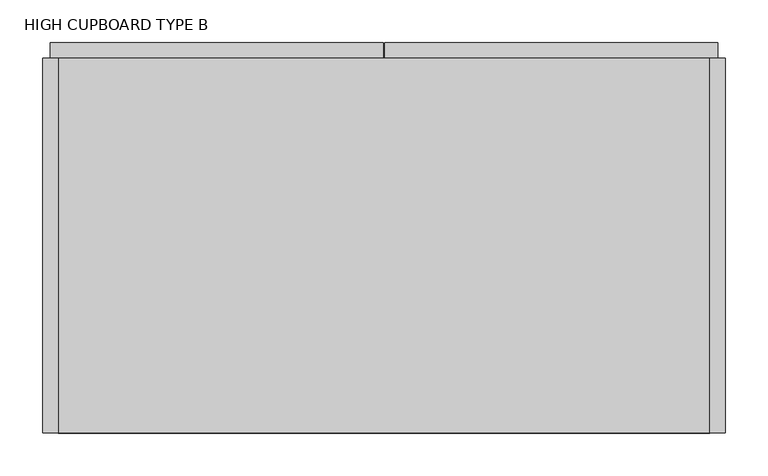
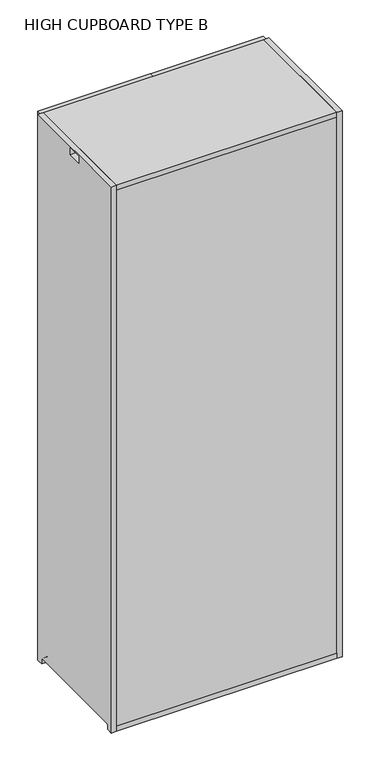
"""IFC4 building model written with IfcOpenShell, lengths in millimetres: furniture geometry, HIGH CUPBOARD TYPE B : 800mmW_High_Cupboad-TypeB."""

from ifc_helpers import new_model, si_unit, point, frame, frame_2d, origin, place, context, project, spatial, polyline, circle_curve, trimmed, segment, composite_curve, outline, extrude, faceted_brep, source, transform, mapped, element, save
from ifc_brep_helpers import plane_surface, revolved_surface, advanced_brep


def high_cupboard_type_b_c3cffa0f(model_context):
    return source(origin(), model_context, "Body", "SolidModel", [
        extrude(outline(composite_curve([segment(polyline([(220.0, 2000.0), (220.0, 0.0), (198.0, 0.0), (198.0, 17.0)]), True, "CONTINUOUS"), segment(trimmed(circle_curve(frame_2d((194.0, 17.0)), 4.0), [point((198.0, 17.0))], [point((194.0, 21.0))], True, "CARTESIAN"), True, "CONTINUOUS"), segment(polyline([(194.0, 21.0), (-194.0, 21.0)]), True, "CONTINUOUS"), segment(trimmed(circle_curve(frame_2d((-194.0, 17.0)), 4.0), [point((-194.0, 21.0))], [point((-198.0, 17.0))], True, "CARTESIAN"), True, "CONTINUOUS"), segment(polyline([(-198.0, 17.0), (-198.0, 0.0), (-220.0, 0.0), (-220.0, 2000.0), (220.0, 2000.0)]), True, "CONTINUOUS")], self_intersect=False), holes=[polyline([(26.0, 1995.0), (-26.0, 1995.0), (-26.0, 1970.0), (26.0, 1970.0), (26.0, 1995.0)])]), frame((-400.0, 0.0, 0.0), z_axis=(1.0, 0.0, 0.0), x_axis=(0.0, 1.0, 0.0)), (0.0, 0.0, 1.0), 18.0),
        advanced_brep(
        [(382.0, -220.0, 18.0), (382.0, 220.0, 18.0), (-382.0, 220.0, 18.0), (-382.0, 197.8729833, 18.0), (-376.1019215, 197.8729833, 18.0), (-376.1019215, -197.8729833, 18.0), (-382.0, -197.8729833, 18.0), (-382.0, -220.0, 18.0), (382.0, -220.0, 0.0), (-382.0, -220.0, 0.0), (-382.0, -198.0, 0.0), (-376.1019215, -198.0, 0.0), (-376.1019215, 198.0, 0.0), (-382.0, 198.0, 0.0), (-382.0, 220.0, 0.0), (382.0, 220.0, 0.0), (-382.0, -198.0, 17.0), (-382.0, 198.0, 17.0), (-376.1019215, -198.0, 17.0), (-376.1019215, 198.0, 17.0)],
        [
            (0, 1),
            (1, 2),
            (2, 3),
            (3, 4),
            (4, 5),
            (5, 6),
            (6, 7),
            (7, 0),
            (8, 9),
            (9, 10),
            (10, 11),
            (11, 12),
            (12, 13),
            (13, 14),
            (14, 15),
            (15, 8),
            (7, 9),
            (8, 0),
            (6, 16, circle_curve(frame((-382.0, -194.0, 17.0), z_axis=(1.0, 0.0, 0.0), x_axis=(0.0, -1.0, 0.0)), 4.0)),
            (16, 10),
            (13, 17),
            (17, 3, circle_curve(frame((-382.0, 194.0, 17.0), z_axis=(1.0, 0.0, 0.0), x_axis=(0.0, -1.0, 0.0)), 4.0)),
            (2, 14),
            (1, 15),
            (18, 5, circle_curve(frame((-376.1019215, -194.0, 17.0), z_axis=(-1.0, 0.0, 0.0), x_axis=(0.0, -1.0, 0.0)), 4.0)),
            (4, 19, circle_curve(frame((-376.1019215, 194.0, 17.0), z_axis=(-1.0, 0.0, 0.0), x_axis=(0.0, -1.0, 0.0)), 4.0)),
            (19, 12),
            (11, 18),
            (17, 19),
            (16, 18),
        ],
        [
            plane_surface(frame((-382.0, -220.0, 18.0), z_axis=(0.0, 0.0, 1.0), x_axis=(-1.0, 0.0, 0.0))),
            plane_surface(frame((-382.0, -220.0, 0.0), z_axis=(0.0, 0.0, -1.0), x_axis=(1.0, 0.0, 0.0))),
            plane_surface(frame((382.0, -220.0, 18.0), z_axis=(0.0, -1.0, 0.0), x_axis=(0.0, 0.0, -1.0))),
            plane_surface(frame((-382.0, -220.0, 18.0), z_axis=(-1.0, 0.0, 0.0), x_axis=(0.0, 0.0, -1.0))),
            plane_surface(frame((-382.0, 220.0, 18.0), z_axis=(0.0, 1.0, 0.0), x_axis=(0.0, 0.0, -1.0))),
            plane_surface(frame((382.0, 220.0, 18.0), z_axis=(1.0, 0.0, 0.0), x_axis=(0.0, 0.0, -1.0))),
            plane_surface(frame((-376.1019215, 190.0, 17.0), z_axis=(-1.0, 0.0, 0.0), x_axis=(0.0, 0.0, 1.0))),
            revolved_surface(polyline([(-376.1019215, 190.0, 17.0), (-382.0, 190.0, 17.0)]), (-406.0458228, 194.0, 17.0), (1.0, 0.0, 0.0)),
            plane_surface(frame((-376.1019215, 198.0, 17.0), z_axis=(0.0, -1.0, 0.0), x_axis=(-1.0, 0.0, 0.0))),
            plane_surface(frame((-376.1019215, -198.0, 0.0), z_axis=(0.0, 1.0, 0.0), x_axis=(-1.0, 0.0, 0.0))),
            revolved_surface(polyline([(-376.1019215, -198.0, 17.0), (-382.0, -198.0, 17.0)]), (-406.0458228, -194.0, 17.0), (1.0, 0.0, 0.0)),
        ],
        [
            (0, [[1, 2, 3, 4, 5, 6, 7, 8]]),
            (1, [[9, 10, 11, 12, 13, 14, 15, 16]]),
            (2, [[17, -9, 18, -8]]),
            (3, [[-7, 19, 20, -10, -17]]),
            (3, [[-14, 21, 22, -3, 23]]),
            (4, [[24, -15, -23, -2]]),
            (5, [[-18, -16, -24, -1]]),
            (6, [[25, -5, 26, 27, -12, 28]]),
            (7, [[-4, -22, 29, -26]]),
            (8, [[-29, -21, -13, -27]]),
            (9, [[-11, -20, 30, -28]]),
            (10, [[-30, -19, -6, -25]]),
        ],
    ),
        extrude(outline(composite_curve([segment(polyline([(220.0, 2000.0), (220.0, 0.0), (198.0, 0.0), (198.0, 17.0)]), True, "CONTINUOUS"), segment(trimmed(circle_curve(frame_2d((194.0, 17.0)), 4.0), [point((198.0, 17.0))], [point((194.0, 21.0))], True, "CARTESIAN"), True, "CONTINUOUS"), segment(polyline([(194.0, 21.0), (-194.0, 21.0)]), True, "CONTINUOUS"), segment(trimmed(circle_curve(frame_2d((-194.0, 17.0)), 4.0), [point((-194.0, 21.0))], [point((-198.0, 17.0))], True, "CARTESIAN"), True, "CONTINUOUS"), segment(polyline([(-198.0, 17.0), (-198.0, 0.0), (-220.0, 0.0), (-220.0, 2000.0), (220.0, 2000.0)]), True, "CONTINUOUS")], self_intersect=False), holes=[polyline([(26.0, 1995.0), (-26.0, 1995.0), (-26.0, 1970.0), (26.0, 1970.0), (26.0, 1995.0)])]), frame((382.0, 0.0, 0.0), z_axis=(1.0, 0.0, 0.0), x_axis=(0.0, 1.0, 0.0)), (0.0, 0.0, 1.0), 18.0),
        extrude(outline(polyline([(391.0, 220.0), (1.0, 220.0), (1.0, 238.0), (391.0, 238.0), (391.0, 220.0)])), frame((0.0, 0.0, 1196.5), z_axis=(0.0, 0.0, 1.0), x_axis=(1.0, 0.0, 0.0)), (0.0, 0.0, 1.0), 801.5),
        extrude(outline(polyline([(-391.0, 220.0), (-391.0, 238.0), (-1.0, 238.0), (-1.0, 220.0), (-391.0, 220.0)])), frame((0.0, 0.0, 1196.5), z_axis=(0.0, 0.0, 1.0), x_axis=(1.0, 0.0, 0.0)), (0.0, 0.0, 1.0), 801.5),
        extrude(outline(polyline([(382.0, -220.0), (-382.0, -220.0), (-382.0, -202.0), (382.0, -202.0), (382.0, -220.0)])), frame((0.0, 0.0, 18.0), z_axis=(0.0, 0.0, 1.0), x_axis=(1.0, 0.0, 0.0)), (0.0, 0.0, 1.0), 1964.0),
        extrude(outline(polyline([(382.0, -202.0), (-382.0, -202.0), (-382.0, 220.0), (382.0, 220.0), (382.0, -202.0)])), frame((0.0, 0.0, 398.5), z_axis=(0.0, 0.0, 1.0), x_axis=(1.0, 0.0, 0.0)), (0.0, 0.0, 1.0), 18.0),
        extrude(outline(polyline([(382.0, -202.0), (-382.0, -202.0), (-382.0, 220.0), (382.0, 220.0), (382.0, -202.0)])), frame((0.0, 0.0, 793.5), z_axis=(0.0, 0.0, 1.0), x_axis=(1.0, 0.0, 0.0)), (0.0, 0.0, 1.0), 18.0),
        extrude(outline(polyline([(382.0, -202.0), (-382.0, -202.0), (-382.0, 220.0), (382.0, 220.0), (382.0, -202.0)])), frame((0.0, 0.0, 1188.5), z_axis=(0.0, 0.0, 1.0), x_axis=(1.0, 0.0, 0.0)), (0.0, 0.0, 1.0), 18.0),
        extrude(outline(polyline([(382.0, -202.0), (-382.0, -202.0), (-382.0, 220.0), (382.0, 220.0), (382.0, -202.0)])), frame((0.0, 0.0, 1583.5), z_axis=(0.0, 0.0, 1.0), x_axis=(1.0, 0.0, 0.0)), (0.0, 0.0, 1.0), 18.0),
        extrude(outline(polyline([(9.0, -202.0), (-9.0, -202.0), (-9.0, 220.0), (9.0, 220.0), (9.0, -202.0)])), frame((0.0, 0.0, 18.0), z_axis=(0.0, 0.0, 1.0), x_axis=(1.0, 0.0, 0.0)), (0.0, 0.0, 1.0), 1964.0),
        extrude(outline(polyline([(-391.0, 220.0), (-391.0, 238.0), (-1.0, 238.0), (-1.0, 220.0), (-391.0, 220.0)])), frame((0.0, 0.0, 2.0), z_axis=(0.0, 0.0, 1.0), x_axis=(1.0, 0.0, 0.0)), (0.0, 0.0, 1.0), 1194.5),
        extrude(outline(polyline([(391.0, 220.0), (1.0, 220.0), (1.0, 238.0), (391.0, 238.0), (391.0, 220.0)])), frame((0.0, 0.0, 2.0), z_axis=(0.0, 0.0, 1.0), x_axis=(1.0, 0.0, 0.0)), (0.0, 0.0, 1.0), 1194.5),
        faceted_brep([(382.0, -220.0, 2000.0), (382.0, 220.0, 2000.0), (-382.0, 220.0, 2000.0), (-382.0, -220.0, 2000.0), (382.0, 220.0, 1982.0), (382.0, 26.0, 1982.0), (375.9541772, 26.0, 1982.0), (375.9541772, -26.0, 1982.0), (382.0, -26.0, 1982.0), (382.0, -220.0, 1982.0), (-382.0, -220.0, 1982.0), (-382.0, -26.0, 1982.0), (-376.1019215, -26.0, 1982.0), (-376.1019215, 26.0, 1982.0), (-382.0, 26.0, 1982.0), (-382.0, 220.0, 1982.0), (-382.0, 26.0, 1995.0), (-382.0, -26.0, 1995.0), (382.0, -26.0, 1995.0), (382.0, 26.0, 1995.0), (375.9541772, -26.0, 1995.0), (375.9541772, 26.0, 1995.0), (-376.1019215, 26.0, 1995.0), (-376.1019215, -26.0, 1995.0)], [[[0, 1, 2, 3]], [[4, 5, 6, 7, 8, 9, 10, 11, 12, 13, 14, 15]], [[3, 10, 9, 0]], [[2, 15, 14, 16, 17, 11, 10, 3]], [[1, 4, 15, 2]], [[0, 9, 8, 18, 19, 5, 4, 1]], [[20, 7, 6, 21]], [[6, 5, 19, 21]], [[20, 18, 8, 7]], [[21, 19, 18, 20]], [[22, 13, 12, 23]], [[22, 16, 14, 13]], [[12, 11, 17, 23]], [[23, 17, 16, 22]]]),
    ])


if __name__ == "__main__":
    model = new_model("IFC4")
    model_context = context("Model", 3, world=origin())
    ifc_project = project(units=[si_unit("LENGTHUNIT", "METRE", prefix="MILLI")], contexts=[model_context])
    site = spatial("IfcSite", under=ifc_project)
    building = spatial("IfcBuilding", under=site)
    placement = place(None, origin())
    high_cupboard_type_b_shape = high_cupboard_type_b_c3cffa0f(model_context)
    element("IfcFurniture", 1, ObjectType="HIGH CUPBOARD TYPE B : 800mmW_High_Cupboad-TypeB", at=placement, inside=building, context=model_context, shape_type="MappedRepresentation", body=[
        mapped(high_cupboard_type_b_shape, transform((0.0, 0.0, 0.0), x_axis=(1.0, 0.0, 0.0), y_axis=(0.0, 1.0, 0.0), z_axis=(0.0, 0.0, 1.0))),
    ])
    save(model, "model.ifc")
